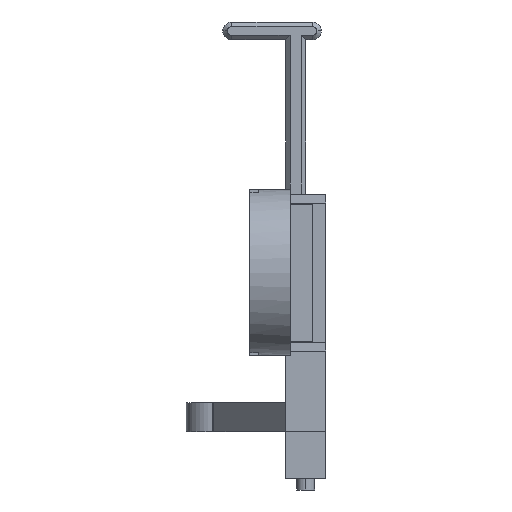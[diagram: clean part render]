
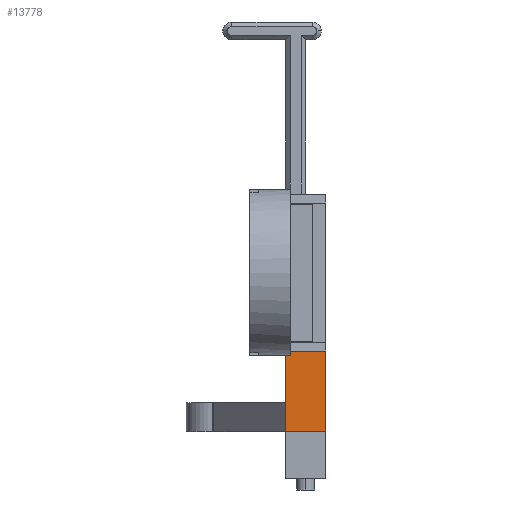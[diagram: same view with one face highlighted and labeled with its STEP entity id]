
A CAD part, left-side view. The second image highlights one B-rep face of the part: STEP entity #13778.
In plain terms, the highlighted planar face has unit normal (-1, 0, 0).
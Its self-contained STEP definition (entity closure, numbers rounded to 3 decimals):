
#194 = PLANE('',#195);
#195 = AXIS2_PLACEMENT_3D('',#196,#197,#198);
#196 = CARTESIAN_POINT('',(0.,0.,
    -35.529));
#197 = DIRECTION('',(0.,0.,-1.));
#198 = DIRECTION('',(-1.,0.,0.));
#3731 = VERTEX_POINT('',#3732);
#3732 = CARTESIAN_POINT('',(27.025,0.,-35.529));
#3746 = PLANE('',#3747);
#3747 = AXIS2_PLACEMENT_3D('',#3748,#3749,#3750);
#3748 = CARTESIAN_POINT('',(0.,0.,-3.));
#3749 = DIRECTION('',(0.,1.,0.));
#3750 = DIRECTION('',(0.,-0.,1.));
#3758 = EDGE_CURVE('',#3731,#3759,#3761,.T.);
#3759 = VERTEX_POINT('',#3760);
#3760 = CARTESIAN_POINT('',(27.025,9.,-35.529));
#3761 = SURFACE_CURVE('',#3762,(#3766,#3773),.PCURVE_S1.);
#3762 = LINE('',#3763,#3764);
#3763 = CARTESIAN_POINT('',(27.025,0.,-35.529));
#3764 = VECTOR('',#3765,1.);
#3765 = DIRECTION('',(0.,1.,0.));
#3766 = PCURVE('',#194,#3767);
#3767 = DEFINITIONAL_REPRESENTATION('',(#3768),#3772);
#3768 = LINE('',#3769,#3770);
#3769 = CARTESIAN_POINT('',(-27.025,0.));
#3770 = VECTOR('',#3771,1.);
#3771 = DIRECTION('',(0.,1.));
#3772 = ( GEOMETRIC_REPRESENTATION_CONTEXT(2) 
PARAMETRIC_REPRESENTATION_CONTEXT() REPRESENTATION_CONTEXT('2D SPACE',''
  ) );
#3773 = PCURVE('',#3774,#3779);
#3774 = PLANE('',#3775);
#3775 = AXIS2_PLACEMENT_3D('',#3776,#3777,#3778);
#3776 = CARTESIAN_POINT('',(27.025,9.,-25.029));
#3777 = DIRECTION('',(1.,0.,0.));
#3778 = DIRECTION('',(0.,0.,-1.));
#3779 = DEFINITIONAL_REPRESENTATION('',(#3780),#3784);
#3780 = LINE('',#3781,#3782);
#3781 = CARTESIAN_POINT('',(10.5,-9.));
#3782 = VECTOR('',#3783,1.);
#3783 = DIRECTION('',(0.,1.));
#3784 = ( GEOMETRIC_REPRESENTATION_CONTEXT(2) 
PARAMETRIC_REPRESENTATION_CONTEXT() REPRESENTATION_CONTEXT('2D SPACE',''
  ) );
#3802 = PLANE('',#3803);
#3803 = AXIS2_PLACEMENT_3D('',#3804,#3805,#3806);
#3804 = CARTESIAN_POINT('',(27.025,9.,-25.029));
#3805 = DIRECTION('',(0.,-1.,0.));
#3806 = DIRECTION('',(1.,0.,0.));
#11442 = PLANE('',#11443);
#11443 = AXIS2_PLACEMENT_3D('',#11444,#11445,#11446);
#11444 = CARTESIAN_POINT('',(0.,9.,-17.529));
#11445 = DIRECTION('',(0.,-0.,1.));
#11446 = DIRECTION('',(1.,0.,0.));
#13587 = VERTEX_POINT('',#13588);
#13588 = CARTESIAN_POINT('',(27.025,9.,-17.529));
#13778 = ADVANCED_FACE('',(#13779),#3774,.F.);
#13779 = FACE_BOUND('',#13780,.T.);
#13780 = EDGE_LOOP('',(#13781,#13804,#13825,#13846));
#13781 = ORIENTED_EDGE('',*,*,#13782,.T.);
#13782 = EDGE_CURVE('',#3731,#13783,#13785,.T.);
#13783 = VERTEX_POINT('',#13784);
#13784 = CARTESIAN_POINT('',(27.025,0.,-17.529));
#13785 = SURFACE_CURVE('',#13786,(#13790,#13797),.PCURVE_S1.);
#13786 = LINE('',#13787,#13788);
#13787 = CARTESIAN_POINT('',(27.025,0.,-25.029));
#13788 = VECTOR('',#13789,1.);
#13789 = DIRECTION('',(0.,-0.,1.));
#13790 = PCURVE('',#3774,#13791);
#13791 = DEFINITIONAL_REPRESENTATION('',(#13792),#13796);
#13792 = LINE('',#13793,#13794);
#13793 = CARTESIAN_POINT('',(-0.,-9.));
#13794 = VECTOR('',#13795,1.);
#13795 = DIRECTION('',(-1.,0.));
#13796 = ( GEOMETRIC_REPRESENTATION_CONTEXT(2) 
PARAMETRIC_REPRESENTATION_CONTEXT() REPRESENTATION_CONTEXT('2D SPACE',''
  ) );
#13797 = PCURVE('',#3746,#13798);
#13798 = DEFINITIONAL_REPRESENTATION('',(#13799),#13803);
#13799 = LINE('',#13800,#13801);
#13800 = CARTESIAN_POINT('',(-22.029,27.025));
#13801 = VECTOR('',#13802,1.);
#13802 = DIRECTION('',(1.,0.));
#13803 = ( GEOMETRIC_REPRESENTATION_CONTEXT(2) 
PARAMETRIC_REPRESENTATION_CONTEXT() REPRESENTATION_CONTEXT('2D SPACE',''
  ) );
#13804 = ORIENTED_EDGE('',*,*,#13805,.T.);
#13805 = EDGE_CURVE('',#13783,#13587,#13806,.T.);
#13806 = SURFACE_CURVE('',#13807,(#13811,#13818),.PCURVE_S1.);
#13807 = LINE('',#13808,#13809);
#13808 = CARTESIAN_POINT('',(27.025,9.,-17.529));
#13809 = VECTOR('',#13810,1.);
#13810 = DIRECTION('',(0.,1.,-0.));
#13811 = PCURVE('',#3774,#13812);
#13812 = DEFINITIONAL_REPRESENTATION('',(#13813),#13817);
#13813 = LINE('',#13814,#13815);
#13814 = CARTESIAN_POINT('',(-7.5,0.));
#13815 = VECTOR('',#13816,1.);
#13816 = DIRECTION('',(0.,1.));
#13817 = ( GEOMETRIC_REPRESENTATION_CONTEXT(2) 
PARAMETRIC_REPRESENTATION_CONTEXT() REPRESENTATION_CONTEXT('2D SPACE',''
  ) );
#13818 = PCURVE('',#11442,#13819);
#13819 = DEFINITIONAL_REPRESENTATION('',(#13820),#13824);
#13820 = LINE('',#13821,#13822);
#13821 = CARTESIAN_POINT('',(27.025,0.));
#13822 = VECTOR('',#13823,1.);
#13823 = DIRECTION('',(0.,1.));
#13824 = ( GEOMETRIC_REPRESENTATION_CONTEXT(2) 
PARAMETRIC_REPRESENTATION_CONTEXT() REPRESENTATION_CONTEXT('2D SPACE',''
  ) );
#13825 = ORIENTED_EDGE('',*,*,#13826,.F.);
#13826 = EDGE_CURVE('',#3759,#13587,#13827,.T.);
#13827 = SURFACE_CURVE('',#13828,(#13832,#13839),.PCURVE_S1.);
#13828 = LINE('',#13829,#13830);
#13829 = CARTESIAN_POINT('',(27.025,9.,-25.029));
#13830 = VECTOR('',#13831,1.);
#13831 = DIRECTION('',(0.,-0.,1.));
#13832 = PCURVE('',#3774,#13833);
#13833 = DEFINITIONAL_REPRESENTATION('',(#13834),#13838);
#13834 = LINE('',#13835,#13836);
#13835 = CARTESIAN_POINT('',(0.,0.));
#13836 = VECTOR('',#13837,1.);
#13837 = DIRECTION('',(-1.,0.));
#13838 = ( GEOMETRIC_REPRESENTATION_CONTEXT(2) 
PARAMETRIC_REPRESENTATION_CONTEXT() REPRESENTATION_CONTEXT('2D SPACE',''
  ) );
#13839 = PCURVE('',#3802,#13840);
#13840 = DEFINITIONAL_REPRESENTATION('',(#13841),#13845);
#13841 = LINE('',#13842,#13843);
#13842 = CARTESIAN_POINT('',(0.,0.));
#13843 = VECTOR('',#13844,1.);
#13844 = DIRECTION('',(0.,1.));
#13845 = ( GEOMETRIC_REPRESENTATION_CONTEXT(2) 
PARAMETRIC_REPRESENTATION_CONTEXT() REPRESENTATION_CONTEXT('2D SPACE',''
  ) );
#13846 = ORIENTED_EDGE('',*,*,#3758,.F.);
